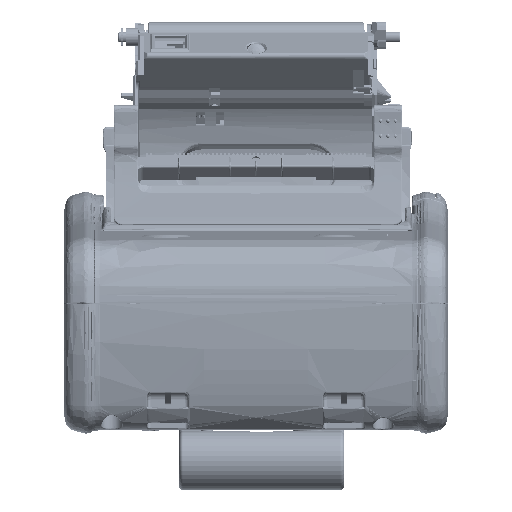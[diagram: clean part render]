
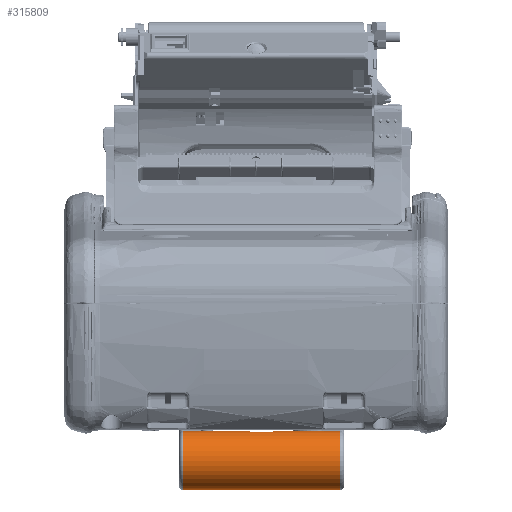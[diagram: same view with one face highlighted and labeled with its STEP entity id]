
A CAD part, top view. The second image highlights one B-rep face of the part: STEP entity #315809.
In plain terms, the highlighted cylindrical face has radius 7.9 mm (diameter 15.8 mm), a partial arc.
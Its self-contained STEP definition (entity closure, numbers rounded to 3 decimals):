
#310486=CARTESIAN_POINT('',(0.5,-12.4,70.8));
#310487=DIRECTION('',(-1.,0.,0.));
#310488=DIRECTION('',(0.,-0.798,-0.603));
#310489=AXIS2_PLACEMENT_3D('',#310486,#310487,#310488);
#310501=CARTESIAN_POINT('',(-41.5,-12.4,70.8));
#310502=DIRECTION('',(1.,0.,0.));
#310503=DIRECTION('',(0.,0.818,-0.575));
#310504=AXIS2_PLACEMENT_3D('',#310501,#310502,#310503);
#310506=DIRECTION('',(1.,0.,0.));
#310507=VECTOR('',#310506,42.);
#310508=CARTESIAN_POINT('',(-41.5,-5.936,66.258));
#310509=LINE('',#310508,#310507);
#310510=DIRECTION('',(1.,0.,0.));
#310511=VECTOR('',#310510,42.);
#310512=CARTESIAN_POINT('',(-41.5,-18.704,66.039));
#310513=LINE('',#310512,#310511);
#310514=DIRECTION('',(-1.,0.,0.));
#310515=VECTOR('',#310514,6.);
#310516=CARTESIAN_POINT('',(-17.5,-4.8,68.644));
#310517=LINE('',#310516,#310515);
#310518=CARTESIAN_POINT('',(-23.5,-12.4,70.8));
#310519=DIRECTION('',(1.,0.,0.));
#310520=DIRECTION('',(0.,0.962,-0.273));
#310521=AXIS2_PLACEMENT_3D('',#310518,#310519,#310520);
#310523=DIRECTION('',(1.,0.,0.));
#310524=VECTOR('',#310523,6.);
#310525=CARTESIAN_POINT('',(-23.5,-4.8,72.956));
#310526=LINE('',#310525,#310524);
#310527=CARTESIAN_POINT('',(-17.5,-12.4,70.8));
#310528=DIRECTION('',(-1.,0.,0.));
#310529=DIRECTION('',(0.,0.962,0.273));
#310530=AXIS2_PLACEMENT_3D('',#310527,#310528,#310529);
#313564=CARTESIAN_POINT('',(0.5,-5.936,66.258));
#313565=VERTEX_POINT('',#313564);
#313568=CARTESIAN_POINT('',(0.5,-18.704,66.039));
#313569=VERTEX_POINT('',#313568);
#313832=CARTESIAN_POINT('',(-41.5,-5.936,66.258));
#313833=VERTEX_POINT('',#313832);
#313836=CARTESIAN_POINT('',(-41.5,-18.704,66.039));
#313837=VERTEX_POINT('',#313836);
#314401=CARTESIAN_POINT('',(-23.5,-4.8,68.644));
#314402=CARTESIAN_POINT('',(-17.5,-4.8,68.644));
#314403=VERTEX_POINT('',#314401);
#314404=VERTEX_POINT('',#314402);
#314405=CARTESIAN_POINT('',(-23.5,-4.8,72.956));
#314406=CARTESIAN_POINT('',(-17.5,-4.8,72.956));
#314407=VERTEX_POINT('',#314405);
#314408=VERTEX_POINT('',#314406);
#315786=CARTESIAN_POINT('',(-42.5,-12.4,70.8));
#315787=DIRECTION('',(1.,0.,0.));
#315788=DIRECTION('',(0.,0.,1.));
#315789=AXIS2_PLACEMENT_3D('',#315786,#315787,#315788);
#315790=CYLINDRICAL_SURFACE('',#315789,7.9);
#315792=ORIENTED_EDGE('',*,*,#315791,.F.);
#315793=ORIENTED_EDGE('',*,*,#315754,.T.);
#315794=ORIENTED_EDGE('',*,*,#315777,.F.);
#315796=ORIENTED_EDGE('',*,*,#315795,.F.);
#315797=EDGE_LOOP('',(#315792,#315793,#315794,#315796));
#315798=FACE_OUTER_BOUND('',#315797,.F.);
#315800=ORIENTED_EDGE('',*,*,#315799,.T.);
#315802=ORIENTED_EDGE('',*,*,#315801,.T.);
#315804=ORIENTED_EDGE('',*,*,#315803,.T.);
#315806=ORIENTED_EDGE('',*,*,#315805,.T.);
#315807=EDGE_LOOP('',(#315800,#315802,#315804,#315806));
#315808=FACE_BOUND('',#315807,.F.);
#310490=CIRCLE('',#310489,7.9);
#310505=CIRCLE('',#310504,7.9);
#310522=CIRCLE('',#310521,7.9);
#310531=CIRCLE('',#310530,7.9);
#315754=EDGE_CURVE('',#313833,#313565,#310509,.T.);
#315777=EDGE_CURVE('',#313569,#313565,#310490,.T.);
#315791=EDGE_CURVE('',#313833,#313837,#310505,.T.);
#315795=EDGE_CURVE('',#313837,#313569,#310513,.T.);
#315799=EDGE_CURVE('',#314404,#314403,#310517,.T.);
#315801=EDGE_CURVE('',#314403,#314407,#310522,.T.);
#315803=EDGE_CURVE('',#314407,#314408,#310526,.T.);
#315805=EDGE_CURVE('',#314408,#314404,#310531,.T.);
#315809=ADVANCED_FACE('',(#315798,#315808),#315790,.T.);
